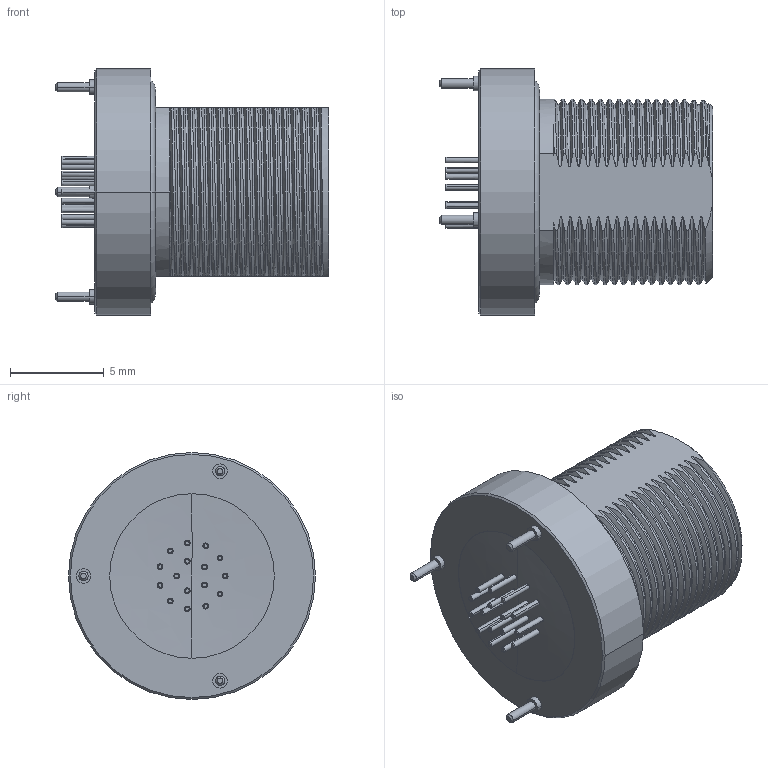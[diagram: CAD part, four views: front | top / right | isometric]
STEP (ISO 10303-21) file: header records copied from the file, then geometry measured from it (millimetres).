
FILE_DESCRIPTION((''),'2;1');
FILE_NAME('00160410--_ASM','2020-10-29T11:28:49',('EUnterhaslberger'),(''),'CREO PARAMETRIC BY PTC INC, 2018300','CREO PARAMETRIC BY PTC INC, 2018300','');
FILE_SCHEMA(('AP242_MANAGED_MODEL_BASED_3D_ENGINEERING_MIM_LF { 1 0 10303 442 1 1 4 }'));
Length unit declared in the file: millimetre
Products named in the file (4): TEMP_SW_STEP_MONOBLOCK_1_1; TEMP_SW_STEP_MONOBLOCK_1_2; TEMP_SW_STEP_MONOBLOCK_1_ASM; 00160410--_ASM
Assembly tree (3 placements, depth 3):
  00160410--_ASM
    TEMP_SW_STEP_MONOBLOCK_1_ASM
      TEMP_SW_STEP_MONOBLOCK_1_1
      TEMP_SW_STEP_MONOBLOCK_1_2
Bounding box: 14.6 x 13.2 x 13.2 mm (x, y, z)
Volume: 820.9 mm3; surface area: 1262.5 mm2
Topology: 2 solids, 2 shells, 586 faces, 1593 edges, 1084 vertices
Faces by surface type: cylinder 193, plane 169, bspline 121, cone 81, torus 21, sphere 1
Entity records: 38173 total; most frequent: CARTESIAN_POINT 20012, ORIENTED_EDGE 3182, DIRECTION 2573, EDGE_CURVE 1591, VERTEX_POINT 1084, AXIS2_PLACEMENT_3D 1039, EDGE_LOOP 663, FACE_OUTER_BOUND 586
